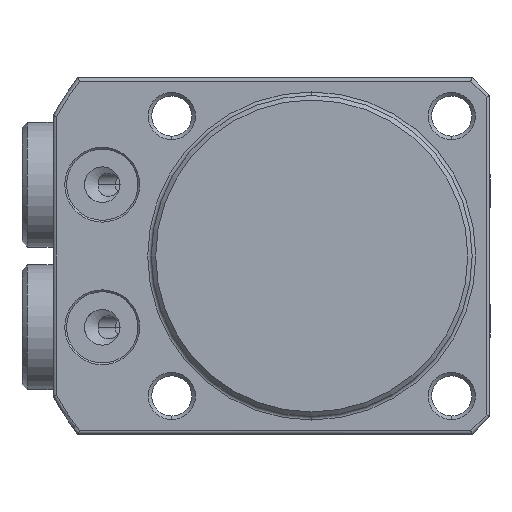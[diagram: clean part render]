
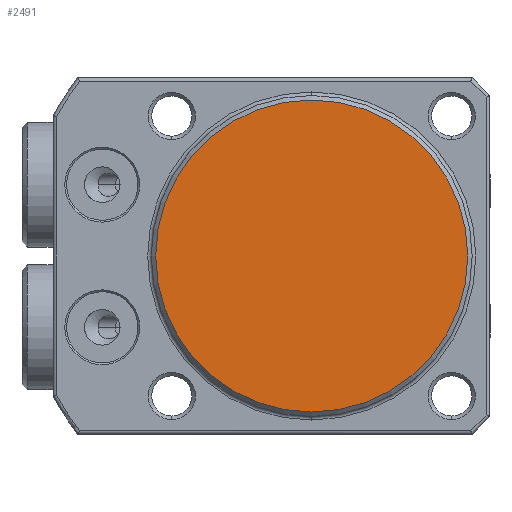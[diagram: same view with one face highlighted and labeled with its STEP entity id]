
A CAD part, front view. The second image highlights one B-rep face of the part: STEP entity #2491.
In plain terms, the highlighted planar face has unit normal (0, -1, 0).
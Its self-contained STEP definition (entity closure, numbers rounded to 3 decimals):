
#1541=PLANE('',#6674);
#2491=ADVANCED_FACE('',(#2839),#1541,.F.);
#2839=FACE_OUTER_BOUND('',#3161,.T.);
#3161=EDGE_LOOP('',(#4074));
#4074=ORIENTED_EDGE('',*,*,#5615,.T.);
#5020=VERTEX_POINT('',#9296);
#5615=EDGE_CURVE('',#5020,#5020,#6177,.T.);
#6177=CIRCLE('',#6673,17.5);
#6673=AXIS2_PLACEMENT_3D('',#9295,#7854,#7855);
#6674=AXIS2_PLACEMENT_3D('',#9297,#7856,#7857);
#7854=DIRECTION('',(0.,-1.,0.));
#7855=DIRECTION('',(0.,0.,1.));
#7856=DIRECTION('',(0.,1.,0.));
#7857=DIRECTION('',(0.,0.,-1.));
#9295=CARTESIAN_POINT('',(0.,-6.,0.));
#9296=CARTESIAN_POINT('',(0.,-6.,17.5));
#9297=CARTESIAN_POINT('',(11.75,-6.,0.));
